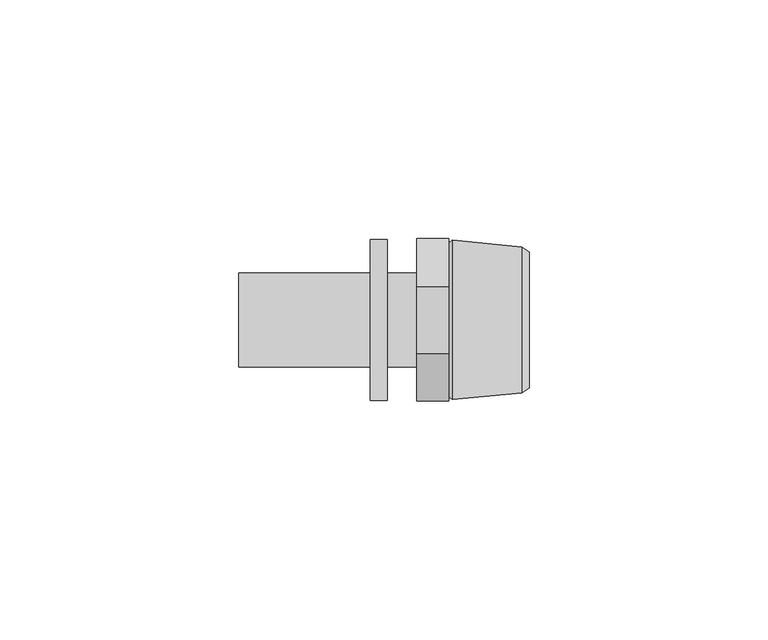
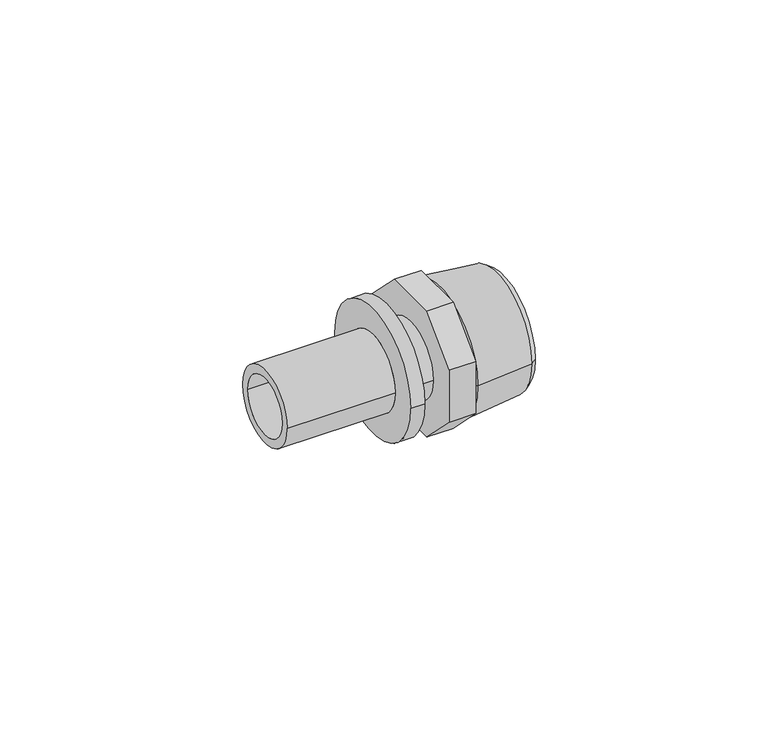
"""IFC4 building model written with IfcOpenShell, lengths in millimetres: pipe fitting geometry, RAUTITAN_Adapter_external_thread LX+G_LX : RTI A external LX+G_LX DE."""

from ifc_helpers import new_model, si_unit, frame, origin, place, context, project, spatial, polyline, circle_curve, outline, extrude, source, transform, mapped, element, save
from ifc_brep_helpers import plane_surface, cylinder_surface, revolved_surface, advanced_brep


def pipe_fitting_6de9a66a(model_context):
    return source(origin(), model_context, "Body", "SolidModel", [
        advanced_brep(
        [(-9.72, 9.875, 0.0), (-9.72, -9.875, 0.0), (-37.2, -9.875, 0.0), (-37.2, 9.875, 0.0), (-6.15, 16.8, 0.0), (-6.15, -16.8, 0.0), (-9.72, -16.8, 0.0), (-9.72, 16.8, 0.0), (-37.2, 7.6, 0.0), (-37.2, -7.6, 0.0), (0.0, -7.6, 0.0), (0.0, 7.6, 0.0), (0.0, 9.875, 0.0), (0.0, -9.875, 0.0), (-6.15, -9.875, 0.0), (-6.15, 9.875, 0.0)],
        [
            (0, 1, circle_curve(frame((-9.72, 0.0, 0.0), z_axis=(-1.0, 0.0, 0.0), x_axis=(0.0, -1.0, 0.0)), 9.875)),
            (1, 2),
            (2, 3, circle_curve(frame((-37.2, 0.0, 0.0), z_axis=(1.0, 0.0, 0.0), x_axis=(0.0, -1.0, 0.0)), 9.875)),
            (3, 0),
            (4, 5, circle_curve(frame((-6.15, 0.0, 0.0), z_axis=(-1.0, 0.0, 0.0), x_axis=(0.0, -1.0, 0.0)), 16.8)),
            (5, 6),
            (6, 7, circle_curve(frame((-9.72, 0.0, 0.0), z_axis=(1.0, 0.0, 0.0), x_axis=(0.0, -1.0, 0.0)), 16.8)),
            (7, 4),
            (8, 9, circle_curve(frame((-37.2, 0.0, 0.0), z_axis=(-1.0, 0.0, 0.0), x_axis=(0.0, -1.0, 0.0)), 7.6)),
            (9, 10),
            (10, 11, circle_curve(frame((0.0, 0.0, 0.0), z_axis=(1.0, 0.0, 0.0), x_axis=(0.0, -1.0, 0.0)), 7.6)),
            (11, 8),
            (2, 3, circle_curve(frame((-37.2, 0.0, 0.0), z_axis=(-1.0, 0.0, 0.0), x_axis=(0.0, 1.0, 0.0)), 9.875)),
            (8, 9, circle_curve(frame((-37.2, 0.0, 0.0), z_axis=(1.0, 0.0, 0.0), x_axis=(0.0, 1.0, 0.0)), 7.6)),
            (1, 0, circle_curve(frame((-9.72, 0.0, 0.0), z_axis=(-1.0, 0.0, 0.0), x_axis=(0.0, 1.0, 0.0)), 9.875)),
            (6, 7, circle_curve(frame((-9.72, 0.0, 0.0), z_axis=(-1.0, 0.0, 0.0), x_axis=(0.0, 1.0, 0.0)), 16.8)),
            (5, 4, circle_curve(frame((-6.15, 0.0, 0.0), z_axis=(-1.0, 0.0, 0.0), x_axis=(0.0, 1.0, 0.0)), 16.8)),
            (12, 13, circle_curve(frame((0.0, 0.0, 0.0), z_axis=(1.0, 0.0, 0.0), x_axis=(0.0, 1.0, 0.0)), 9.875)),
            (13, 12, circle_curve(frame((0.0, 0.0, 0.0), z_axis=(1.0, 0.0, 0.0), x_axis=(0.0, -1.0, 0.0)), 9.875)),
            (10, 11, circle_curve(frame((0.0, 0.0, 0.0), z_axis=(-1.0, 0.0, 0.0), x_axis=(0.0, 1.0, 0.0)), 7.6)),
            (13, 14),
            (14, 15, circle_curve(frame((-6.15, 0.0, 0.0), z_axis=(1.0, 0.0, 0.0), x_axis=(0.0, -1.0, 0.0)), 9.875)),
            (15, 12),
            (14, 15, circle_curve(frame((-6.15, 0.0, 0.0), z_axis=(-1.0, 0.0, 0.0), x_axis=(0.0, 1.0, 0.0)), 9.875)),
        ],
        [
            cylinder_surface(frame((0.0, 0.0, 0.0), z_axis=(1.0, 0.0, 0.0), x_axis=(0.0, -1.0, 0.0)), 9.875),
            cylinder_surface(frame((0.0, 0.0, 0.0), z_axis=(1.0, 0.0, 0.0), x_axis=(0.0, -1.0, 0.0)), 16.8),
            revolved_surface(polyline([(0.0, -7.6, 0.0), (-37.2, -7.6, 0.0)]), (0.0, 0.0, 0.0), (1.0, 0.0, 0.0)),
            plane_surface(frame((-37.2, 0.0, 0.0), z_axis=(-1.0, 0.0, 0.0), x_axis=(0.0, 1.0, 0.0))),
            cylinder_surface(frame((0.0, 0.0, 0.0), z_axis=(1.0, 0.0, 0.0), x_axis=(0.0, 1.0, 0.0)), 9.875),
            plane_surface(frame((-9.72, 0.0, 0.0), z_axis=(-1.0, 0.0, 0.0), x_axis=(0.0, 1.0, 0.0))),
            cylinder_surface(frame((0.0, 0.0, 0.0), z_axis=(1.0, 0.0, 0.0), x_axis=(0.0, 1.0, 0.0)), 16.8),
            plane_surface(frame((0.0, 0.0, 0.0), z_axis=(1.0, 0.0, 0.0), x_axis=(0.0, 1.0, 0.0))),
            revolved_surface(polyline([(0.0, 7.6, 0.0), (-37.2, 7.6, 0.0)]), (0.0, 0.0, 0.0), (1.0, 0.0, 0.0)),
            plane_surface(frame((-6.15, 0.0, 0.0), z_axis=(1.0, 0.0, 0.0), x_axis=(0.0, 1.0, 0.0))),
        ],
        [
            (0, [[1, 2, 3, 4]]),
            (1, [[5, 6, 7, 8]]),
            (2, [[9, 10, 11, 12]]),
            (3, [[13, -3], [14, -9]]),
            (4, [[15, -4, -13, -2]]),
            (5, [[16, -7], [-15, -1]]),
            (6, [[17, -8, -16, -6]]),
            (7, [[18, 19], [20, -11]]),
            (8, [[-14, -12, -20, -10]]),
            (0, [[-19, 21, 22, 23]]),
            (9, [[-17, -5], [24, -22]]),
            (4, [[-18, -23, -24, -21]]),
        ],
    ),
        advanced_brep(
        [(7.8032803, 12.75, 0.0), (7.8032803, -12.75, 0.0), (23.5, -12.75, 0.0), (23.5, 12.75, 0.0), (6.7, 11.6467197, 0.0), (6.7, -11.6467197, 0.0), (7.4406902, 16.69, 0.0), (7.4406902, -16.69, 0.0), (6.7, -16.1, 0.0), (6.7, 16.1, 0.0), (22.0000007, 15.27, 0.0), (22.0000007, -15.27, 0.0), (23.5, 14.235, 0.0), (23.5, -14.235, 0.0)],
        [
            (0, 1, circle_curve(frame((7.8032803, 0.0, 0.0), z_axis=(-1.0, 0.0, 0.0), x_axis=(0.0, -1.0, 0.0)), 12.75)),
            (1, 2),
            (2, 3, circle_curve(frame((23.5, 0.0, 0.0), z_axis=(1.0, 0.0, 0.0), x_axis=(0.0, -1.0, 0.0)), 12.75)),
            (3, 0),
            (4, 5, circle_curve(frame((6.7, 0.0, 0.0), z_axis=(-1.0, 0.0, 0.0), x_axis=(0.0, -1.0, 0.0)), 11.6467197)),
            (5, 1),
            (0, 4),
            (6, 7, circle_curve(frame((7.4406902, 0.0, 0.0), z_axis=(-1.0, 0.0, 0.0), x_axis=(0.0, -1.0, 0.0)), 16.69)),
            (7, 8),
            (8, 9, circle_curve(frame((6.7, 0.0, 0.0), z_axis=(1.0, 0.0, 0.0), x_axis=(0.0, -1.0, 0.0)), 16.1)),
            (9, 6),
            (10, 11, circle_curve(frame((22.0000007, 0.0, 0.0), z_axis=(-1.0, 0.0, 0.0), x_axis=(0.0, -1.0, 0.0)), 15.27)),
            (11, 7),
            (6, 10),
            (12, 13, circle_curve(frame((23.5, 0.0, 0.0), z_axis=(-1.0, 0.0, 0.0), x_axis=(0.0, -1.0, 0.0)), 14.235)),
            (13, 11),
            (10, 12),
            (1, 0, circle_curve(frame((7.8032803, 0.0, 0.0), z_axis=(-1.0, 0.0, 0.0), x_axis=(0.0, 1.0, 0.0)), 12.75)),
            (3, 2, circle_curve(frame((23.5, 0.0, 0.0), z_axis=(1.0, 0.0, 0.0), x_axis=(0.0, 1.0, 0.0)), 12.75)),
            (5, 4, circle_curve(frame((6.7, 0.0, 0.0), z_axis=(-1.0, 0.0, 0.0), x_axis=(0.0, 1.0, 0.0)), 11.6467197)),
            (8, 9, circle_curve(frame((6.7, 0.0, 0.0), z_axis=(-1.0, 0.0, 0.0), x_axis=(0.0, 1.0, 0.0)), 16.1)),
            (7, 6, circle_curve(frame((7.4406902, 0.0, 0.0), z_axis=(-1.0, 0.0, 0.0), x_axis=(0.0, 1.0, 0.0)), 16.69)),
            (11, 10, circle_curve(frame((22.0000007, 0.0, 0.0), z_axis=(-1.0, 0.0, 0.0), x_axis=(0.0, 1.0, 0.0)), 15.27)),
            (13, 12, circle_curve(frame((23.5, 0.0, 0.0), z_axis=(-1.0, 0.0, 0.0), x_axis=(0.0, 1.0, 0.0)), 14.235)),
        ],
        [
            revolved_surface(polyline([(23.5, -12.75, 0.0), (7.8032803, -12.75, 0.0)]), (0.0, 0.0, 0.0), (1.0, 0.0, 0.0)),
            revolved_surface(polyline([(7.8032803, -12.75, 0.0), (6.7, -11.6467197, 0.0)]), (0.0, 0.0, 0.0), (1.0, 0.0, 0.0)),
            revolved_surface(polyline([(6.7, -16.1, 0.0), (7.4406902, -16.69, 0.0)]), (0.0, 0.0, 0.0), (1.0, 0.0, 0.0)),
            revolved_surface(polyline([(7.4406902, -16.69, 0.0), (22.0000007, -15.27, 0.0)]), (0.0, 0.0, 0.0), (1.0, 0.0, 0.0)),
            revolved_surface(polyline([(22.0000007, -15.27, 0.0), (23.5, -14.235, 0.0)]), (0.0, 0.0, 0.0), (1.0, 0.0, 0.0)),
            revolved_surface(polyline([(23.5, 12.75, 0.0), (7.8032803, 12.75, 0.0)]), (0.0, 0.0, 0.0), (1.0, 0.0, 0.0)),
            revolved_surface(polyline([(7.8032803, 12.75, 0.0), (6.7, 11.6467197, 0.0)]), (0.0, 0.0, 0.0), (1.0, 0.0, 0.0)),
            plane_surface(frame((6.7, 0.0, 0.0), z_axis=(-1.0, 0.0, 0.0), x_axis=(0.0, 1.0, 0.0))),
            revolved_surface(polyline([(6.7, 16.1, 0.0), (7.4406902, 16.69, 0.0)]), (0.0, 0.0, 0.0), (1.0, 0.0, 0.0)),
            revolved_surface(polyline([(7.4406902, 16.69, 0.0), (22.0000007, 15.27, 0.0)]), (0.0, 0.0, 0.0), (1.0, 0.0, 0.0)),
            revolved_surface(polyline([(22.0000007, 15.27, 0.0), (23.5, 14.235, 0.0)]), (0.0, 0.0, 0.0), (1.0, 0.0, 0.0)),
            plane_surface(frame((23.5, 0.0, 0.0), z_axis=(1.0, 0.0, 0.0), x_axis=(0.0, 1.0, 0.0))),
        ],
        [
            (0, [[1, 2, 3, 4]]),
            (1, [[5, 6, -1, 7]]),
            (2, [[8, 9, 10, 11]]),
            (3, [[12, 13, -8, 14]]),
            (4, [[15, 16, -12, 17]]),
            (5, [[18, -4, 19, -2]]),
            (6, [[20, -7, -18, -6]]),
            (7, [[21, -10], [-20, -5]]),
            (8, [[22, -11, -21, -9]]),
            (9, [[23, -14, -22, -13]]),
            (10, [[24, -17, -23, -16]]),
            (11, [[-24, -15], [-19, -3]]),
        ],
    ),
        extrude(outline(polyline([(-17.0, 7.0416306), (-7.0416306, 17.0), (7.0416306, 17.0), (17.0, 7.0416306), (17.0, -7.0416306), (7.0416306, -17.0), (-7.0416306, -17.0), (-17.0, -7.0416306), (-17.0, 7.0416306)])), frame((0.0, 0.0, 0.0), z_axis=(1.0, 0.0, 0.0), x_axis=(0.0, 1.0, 0.0)), (0.0, 0.0, 1.0), 6.7),
    ])


if __name__ == "__main__":
    model = new_model("IFC4")
    model_context = context("Model", 3, world=origin())
    ifc_project = project(units=[si_unit("LENGTHUNIT", "METRE", prefix="MILLI")], contexts=[model_context])
    site = spatial("IfcSite", under=ifc_project)
    building = spatial("IfcBuilding", under=site)
    placement = place(None, origin())
    pipe_fitting_shape = pipe_fitting_6de9a66a(model_context)
    element("IfcPipeFitting", 1, ObjectType="RAUTITAN_Adapter_external_thread LX+G_LX : RTI A external LX+G_LX DE", at=placement, inside=building, context=model_context, shape_type="MappedRepresentation", body=[
        mapped(pipe_fitting_shape, transform((0.0, 0.0, 0.0), x_axis=(1.0, 0.0, 0.0), y_axis=(0.0, 1.0, 0.0), z_axis=(0.0, 0.0, 1.0))),
    ])
    save(model, "model.ifc")
